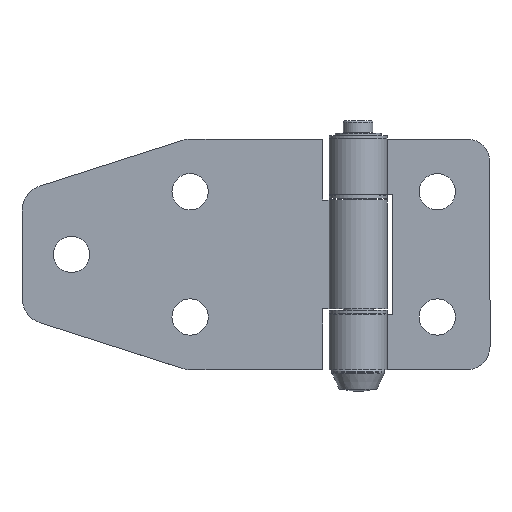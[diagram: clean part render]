
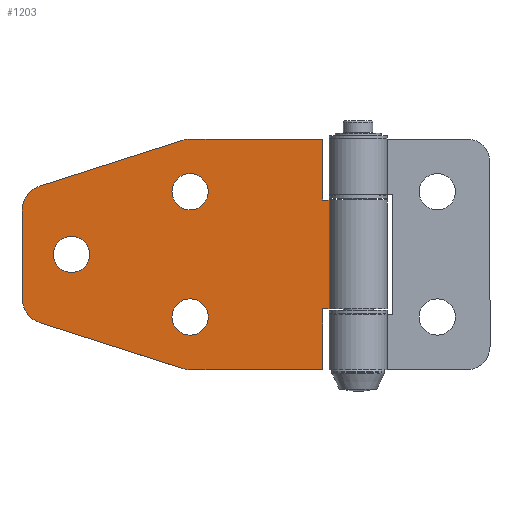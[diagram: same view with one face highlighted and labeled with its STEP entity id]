
A CAD part, top view. The second image highlights one B-rep face of the part: STEP entity #1203.
In plain terms, the highlighted planar face has unit normal (0, 0, 1) as drawn and (0, 1, 0) by its records, which use the part's own axes.
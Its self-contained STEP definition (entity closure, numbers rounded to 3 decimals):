
#32=FACE_BOUND('',#230,.T.);
#33=FACE_BOUND('',#231,.T.);
#34=FACE_BOUND('',#232,.T.);
#91=PLANE('',#1324);
#147=FACE_OUTER_BOUND('',#229,.T.);
#229=EDGE_LOOP('',(#951,#952,#953,#954,#955,#956,#957,#958,#959,#960,#961,
#962,#963,#964));
#230=EDGE_LOOP('',(#965));
#231=EDGE_LOOP('',(#966));
#232=EDGE_LOOP('',(#967));
#343=LINE('',#1966,#427);
#346=LINE('',#1972,#430);
#347=LINE('',#1976,#431);
#348=LINE('',#1980,#432);
#349=LINE('',#1984,#433);
#350=LINE('',#1986,#434);
#351=LINE('',#1988,#435);
#352=LINE('',#1990,#436);
#353=LINE('',#1992,#437);
#354=LINE('',#1993,#438);
#427=VECTOR('',#1577,40.001);
#430=VECTOR('',#1582,45.409);
#431=VECTOR('',#1585,26.321);
#432=VECTOR('',#1588,45.409);
#433=VECTOR('',#1591,40.001);
#434=VECTOR('',#1592,18.5);
#435=VECTOR('',#1593,4.132);
#436=VECTOR('',#1594,33.);
#437=VECTOR('',#1595,4.132);
#438=VECTOR('',#1596,18.5);
#506=CIRCLE('',#1313,5.5);
#508=CIRCLE('',#1316,5.5);
#510=CIRCLE('',#1319,5.5);
#511=CIRCLE('',#1321,8.);
#513=CIRCLE('',#1325,8.);
#514=CIRCLE('',#1326,8.);
#515=CIRCLE('',#1327,8.);
#592=VERTEX_POINT('',#1943);
#594=VERTEX_POINT('',#1948);
#596=VERTEX_POINT('',#1953);
#597=VERTEX_POINT('',#1956);
#598=VERTEX_POINT('',#1957);
#601=VERTEX_POINT('',#1965);
#603=VERTEX_POINT('',#1971);
#604=VERTEX_POINT('',#1973);
#605=VERTEX_POINT('',#1975);
#606=VERTEX_POINT('',#1977);
#607=VERTEX_POINT('',#1979);
#608=VERTEX_POINT('',#1981);
#609=VERTEX_POINT('',#1983);
#610=VERTEX_POINT('',#1985);
#611=VERTEX_POINT('',#1987);
#612=VERTEX_POINT('',#1989);
#613=VERTEX_POINT('',#1991);
#726=EDGE_CURVE('',#592,#592,#506,.T.);
#728=EDGE_CURVE('',#594,#594,#508,.T.);
#730=EDGE_CURVE('',#596,#596,#510,.T.);
#731=EDGE_CURVE('',#597,#598,#511,.T.);
#735=EDGE_CURVE('',#598,#601,#343,.T.);
#738=EDGE_CURVE('',#597,#603,#346,.T.);
#739=EDGE_CURVE('',#604,#603,#513,.T.);
#740=EDGE_CURVE('',#605,#604,#347,.T.);
#741=EDGE_CURVE('',#606,#605,#514,.T.);
#742=EDGE_CURVE('',#606,#607,#348,.T.);
#743=EDGE_CURVE('',#608,#607,#515,.T.);
#744=EDGE_CURVE('',#609,#608,#349,.T.);
#745=EDGE_CURVE('',#609,#610,#350,.T.);
#746=EDGE_CURVE('',#610,#611,#351,.T.);
#747=EDGE_CURVE('',#612,#611,#352,.T.);
#748=EDGE_CURVE('',#612,#613,#353,.T.);
#749=EDGE_CURVE('',#613,#601,#354,.T.);
#951=ORIENTED_EDGE('',*,*,#731,.F.);
#952=ORIENTED_EDGE('',*,*,#738,.T.);
#953=ORIENTED_EDGE('',*,*,#739,.F.);
#954=ORIENTED_EDGE('',*,*,#740,.F.);
#955=ORIENTED_EDGE('',*,*,#741,.F.);
#956=ORIENTED_EDGE('',*,*,#742,.T.);
#957=ORIENTED_EDGE('',*,*,#743,.F.);
#958=ORIENTED_EDGE('',*,*,#744,.F.);
#959=ORIENTED_EDGE('',*,*,#745,.T.);
#960=ORIENTED_EDGE('',*,*,#746,.T.);
#961=ORIENTED_EDGE('',*,*,#747,.F.);
#962=ORIENTED_EDGE('',*,*,#748,.T.);
#963=ORIENTED_EDGE('',*,*,#749,.T.);
#964=ORIENTED_EDGE('',*,*,#735,.F.);
#965=ORIENTED_EDGE('',*,*,#726,.T.);
#966=ORIENTED_EDGE('',*,*,#728,.T.);
#967=ORIENTED_EDGE('',*,*,#730,.T.);
#1203=ADVANCED_FACE('',(#147,#32,#33,#34),#91,.T.);
#1313=AXIS2_PLACEMENT_3D('',#1944,#1553,#1554);
#1316=AXIS2_PLACEMENT_3D('',#1949,#1559,#1560);
#1319=AXIS2_PLACEMENT_3D('',#1954,#1565,#1566);
#1321=AXIS2_PLACEMENT_3D('',#1958,#1569,#1570);
#1324=AXIS2_PLACEMENT_3D('',#1970,#1580,#1581);
#1325=AXIS2_PLACEMENT_3D('',#1974,#1583,#1584);
#1326=AXIS2_PLACEMENT_3D('',#1978,#1586,#1587);
#1327=AXIS2_PLACEMENT_3D('',#1982,#1589,#1590);
#1553=DIRECTION('center_axis',(0.,-1.,0.));
#1554=DIRECTION('ref_axis',(-1.,0.,0.));
#1559=DIRECTION('center_axis',(0.,-1.,0.));
#1560=DIRECTION('ref_axis',(-1.,0.,0.));
#1565=DIRECTION('center_axis',(0.,-1.,0.));
#1566=DIRECTION('ref_axis',(-1.,0.,0.));
#1569=DIRECTION('center_axis',(0.,-1.,0.));
#1570=DIRECTION('ref_axis',(-0.154,0.,-0.988));
#1577=DIRECTION('',(1.,0.,0.));
#1580=DIRECTION('center_axis',(0.,1.,0.));
#1581=DIRECTION('ref_axis',(-1.,0.,0.));
#1582=DIRECTION('',(-0.952,0.,0.305));
#1583=DIRECTION('center_axis',(0.,-1.,0.));
#1584=DIRECTION('ref_axis',(-0.808,0.,-0.59));
#1585=DIRECTION('',(0.,0.,-1.));
#1586=DIRECTION('center_axis',(0.,-1.,0.));
#1587=DIRECTION('ref_axis',(-0.808,0.,0.59));
#1588=DIRECTION('',(0.952,0.,0.305));
#1589=DIRECTION('center_axis',(0.,-1.,0.));
#1590=DIRECTION('ref_axis',(-0.154,0.,0.988));
#1591=DIRECTION('',(-1.,0.,0.));
#1592=DIRECTION('',(0.,0.,-1.));
#1593=DIRECTION('',(1.,0.,0.));
#1594=DIRECTION('',(0.,0.,1.));
#1595=DIRECTION('',(-1.,0.,0.));
#1596=DIRECTION('',(0.,0.,-1.));
#1943=CARTESIAN_POINT('',(-45.5,3.,19.));
#1944=CARTESIAN_POINT('Origin',(-51.,3.,19.));
#1948=CARTESIAN_POINT('',(-81.5,3.,0.));
#1949=CARTESIAN_POINT('Origin',(-87.,3.,0.));
#1953=CARTESIAN_POINT('',(-45.5,3.,-19.));
#1954=CARTESIAN_POINT('Origin',(-51.,3.,-19.));
#1956=CARTESIAN_POINT('',(-53.189,3.,-34.619));
#1957=CARTESIAN_POINT('',(-50.751,3.,-35.));
#1958=CARTESIAN_POINT('Origin',(-50.751,3.,-27.));
#1965=CARTESIAN_POINT('',(-10.75,3.,-35.));
#1966=CARTESIAN_POINT('',(-102.,3.,-35.));
#1970=CARTESIAN_POINT('Origin',(0.,3.,0.));
#1971=CARTESIAN_POINT('',(-96.438,3.,-20.78));
#1972=CARTESIAN_POINT('',(-58.495,3.,-32.922));
#1973=CARTESIAN_POINT('',(-102.,3.,-13.16));
#1974=CARTESIAN_POINT('Origin',(-94.,3.,-13.16));
#1975=CARTESIAN_POINT('',(-102.,3.,13.16));
#1976=CARTESIAN_POINT('',(-102.,3.,0.));
#1977=CARTESIAN_POINT('',(-96.438,3.,20.78));
#1978=CARTESIAN_POINT('Origin',(-94.,3.,13.16));
#1979=CARTESIAN_POINT('',(-53.189,3.,34.619));
#1980=CARTESIAN_POINT('',(-33.495,3.,40.922));
#1981=CARTESIAN_POINT('',(-50.751,3.,35.));
#1982=CARTESIAN_POINT('Origin',(-50.751,3.,27.));
#1983=CARTESIAN_POINT('',(-10.75,3.,35.));
#1984=CARTESIAN_POINT('',(-102.,3.,35.));
#1985=CARTESIAN_POINT('',(-10.75,3.,16.5));
#1986=CARTESIAN_POINT('',(-10.75,3.,8.25));
#1987=CARTESIAN_POINT('',(-6.618,3.,16.5));
#1988=CARTESIAN_POINT('',(7.043,3.,16.5));
#1989=CARTESIAN_POINT('',(-6.618,3.,-16.5));
#1990=CARTESIAN_POINT('',(-6.618,3.,0.));
#1991=CARTESIAN_POINT('',(-10.75,3.,-16.5));
#1992=CARTESIAN_POINT('',(7.043,3.,-16.5));
#1993=CARTESIAN_POINT('',(-10.75,3.,-8.25));
